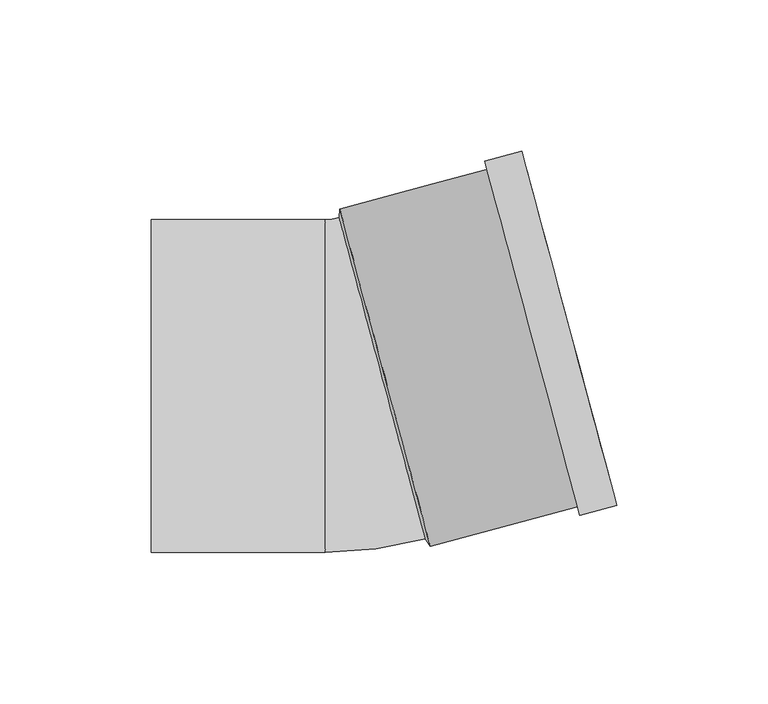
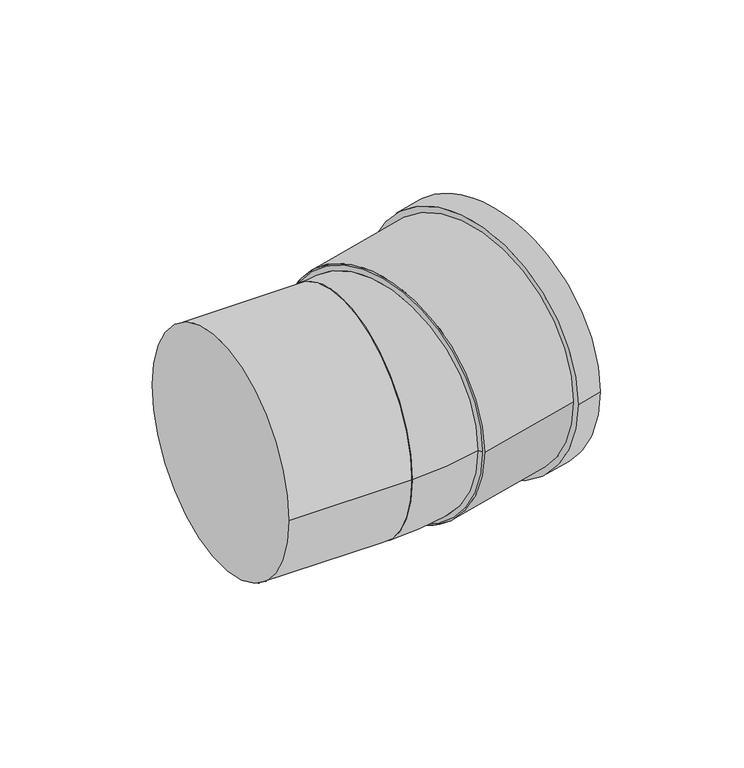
"""IFC4 building model written with IfcOpenShell, lengths in millimetres: pipe fitting geometry, Superdrain HT bend : Superdrain HT Bend."""

from ifc_helpers import new_model, si_unit, point, frame, origin, origin_2d, place, context, project, spatial, polyline, circle_curve, ellipse_curve, trimmed, segment, composite_curve, outline, extrude, source, transform, mapped, element, save
from ifc_brep_helpers import plane_surface, revolved_surface, advanced_brep


def pipe_fitting_52a06b67(model_context):
    return source(origin(), model_context, "Body", "SolidModel", [
        advanced_brep(
        [(23.5079354, -50.6412576, 0.0), (-4.9621595, 55.6105833, 0.0), (-9.6, -55.0, 0.0), (-9.6, 55.0, 0.0)],
        [
            (0, 1, circle_curve(frame((9.2728879, 2.4846628, 0.0), z_axis=(0.965925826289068, 0.25881904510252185, 0.0), x_axis=(-0.25881904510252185, 0.965925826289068, 0.0)), 55.0)),
            (1, 0, circle_curve(frame((9.2728879, 2.4846628, 0.0), z_axis=(0.9659258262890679, 0.25881904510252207, 0.0), x_axis=(-0.25881904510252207, 0.9659258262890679, 0.0)), 55.0)),
            (2, 3, circle_curve(frame((-9.6, 0.0, 0.0), z_axis=(-1.0, 0.0, 0.0), x_axis=(0.0, 1.0, 0.0)), 55.0)),
            (3, 2, circle_curve(frame((-9.6, 0.0, 0.0), z_axis=(-1.0, 0.0, 0.0), x_axis=(0.0, 1.0, 0.0)), 55.0)),
            (3, 1, circle_curve(frame((-9.6, 72.9192395, 0.0), z_axis=(0.0, 0.0, 1.0), x_axis=(1.0, 0.0, 0.0)), 17.9192395)),
            (0, 2, circle_curve(frame((-9.6, 72.9192395, 0.0), z_axis=(0.0, 0.0, -1.0), x_axis=(1.0, 0.0, 0.0)), 127.9192395)),
        ],
        [
            plane_surface(frame((9.2728879, 2.4846628, 0.0), z_axis=(0.965925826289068, 0.258819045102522, 0.0), x_axis=(0.0, 0.0, -1.0))),
            plane_surface(frame((-9.6, 0.0, 0.0), z_axis=(-1.0, 0.0, 0.0), x_axis=(0.0, 0.0, -1.0))),
            revolved_surface(trimmed(ellipse_curve(frame((63.3192395, 72.9192395, 0.0), z_axis=(0.0, -1.0, 0.0), x_axis=(-1.0, 0.0, 0.0)), 55.0, 55.0), [point((8.3192395, 72.9192395, 0.0))], [point((118.3192395, 72.9192395, 0.0))], True, "CARTESIAN"), (-9.6, 72.9192395, 0.0), (0.0, 0.0, 1.0)),
            revolved_surface(trimmed(ellipse_curve(frame((63.3192395, 72.9192395, 0.0), z_axis=(0.0, -1.0, 0.0), x_axis=(-1.0, 0.0, 0.0)), 55.0, 55.0), [point((118.3192395, 72.9192395, 0.0))], [point((8.3192395, 72.9192395, 0.0))], True, "CARTESIAN"), (-9.6, 72.9192395, 0.0), (0.0, 0.0, 1.0)),
        ],
        [
            (0, [[1, 2]]),
            (1, [[3, 4]]),
            (2, [[-4, 5, -1, 6]]),
            (3, [[-3, -6, -2, -5]]),
        ],
    ),
        extrude(outline(composite_curve([segment(trimmed(circle_curve(origin_2d(), 57.75), [point((0.0, 57.75))], [point((0.0, -57.7499999))], False, "CARTESIAN"), True, "CONTINUOUS"), segment(trimmed(circle_curve(origin_2d(), 57.75), [point((0.0, -57.7499999))], [point((0.0, 57.75))], False, "CARTESIAN"), True, "CONTINUOUS")], self_intersect=False), holes=[composite_curve([segment(trimmed(circle_curve(origin_2d(), 55.0), [point((0.0, 55.0))], [point((0.0, -55.0))], True, "CARTESIAN"), True, "CONTINUOUS"), segment(trimmed(circle_curve(origin_2d(), 55.0), [point((0.0, -55.0))], [point((0.0, 55.0))], True, "CARTESIAN"), True, "CONTINUOUS")], self_intersect=False)]), frame((10.2388138, 2.7434819, 0.0), z_axis=(0.9659258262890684, 0.2588190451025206, 0.0), x_axis=(0.0, 0.0, 1.0)), (0.0, 0.0, 1.0), 63.0),
        extrude(outline(composite_curve([segment(trimmed(circle_curve(origin_2d(), 60.6375), [point((0.0, -60.6374999))], [point((0.0, 60.6375))], False, "CARTESIAN"), True, "CONTINUOUS"), segment(trimmed(circle_curve(origin_2d(), 60.6375), [point((0.0, 60.6375))], [point((0.0, -60.6374999))], False, "CARTESIAN"), True, "CONTINUOUS")], self_intersect=False), holes=[composite_curve([segment(trimmed(circle_curve(origin_2d(), 55.0), [point((0.0, -55.0))], [point((0.0, 55.0000001))], True, "CARTESIAN"), True, "CONTINUOUS"), segment(trimmed(circle_curve(origin_2d(), 55.0), [point((0.0, 55.0000001))], [point((0.0, -55.0))], True, "CARTESIAN"), True, "CONTINUOUS")], self_intersect=False)]), frame((58.9214754, 15.7879618, 0.0), z_axis=(0.9659258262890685, 0.25881904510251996, 0.0), x_axis=(0.0, 0.0, 1.0)), (0.0, 0.0, 1.0), 12.6),
        advanced_brep(
        [(25.1856136, -53.0387346, 0.0), (-4.7079861, 58.5256983, 0.0), (23.5079354, -50.6412576, 0.0), (-4.9621595, 55.6105833, 0.0)],
        [
            (0, 1, circle_curve(frame((10.2388138, 2.7434819, 0.0), z_axis=(0.9659258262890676, 0.25881904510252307, 0.0), x_axis=(0.25881904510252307, -0.9659258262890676, 0.0)), 57.75)),
            (1, 0, circle_curve(frame((10.2388138, 2.7434819, 0.0), z_axis=(0.9659258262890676, 0.25881904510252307, 0.0), x_axis=(-0.25881904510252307, 0.9659258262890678, 0.0)), 57.75)),
            (2, 3, circle_curve(frame((9.2728879, 2.4846628, 0.0), z_axis=(-0.9659258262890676, -0.25881904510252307, 0.0), x_axis=(-0.25881904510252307, 0.9659258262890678, 0.0)), 55.0)),
            (3, 2, circle_curve(frame((9.2728879, 2.4846628, 0.0), z_axis=(-0.9659258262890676, -0.25881904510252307, 0.0), x_axis=(0.25881904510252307, -0.9659258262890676, 0.0)), 55.0)),
            (3, 1),
            (0, 2),
        ],
        [
            plane_surface(frame((10.2388138, 2.7434819, 0.0), z_axis=(0.9659258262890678, 0.25881904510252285, 0.0), x_axis=(0.0, 0.0, -1.0))),
            plane_surface(frame((9.2728879, 2.4846628, 0.0), z_axis=(-0.9659258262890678, -0.25881904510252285, 0.0), x_axis=(0.0, 0.0, -1.0))),
            revolved_surface(polyline([(-4.962159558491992, 55.61058316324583, 0.0), (-4.7079860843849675, 58.525698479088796, 0.0)]), (-10.0456286, -2.6917181, 0.0), (0.9659258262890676, 0.25881904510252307, 0.0)),
            revolved_surface(polyline([(23.507935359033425, -50.641257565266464, 0.0), (25.185613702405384, -53.03873474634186, 0.0)]), (-10.0456286, -2.6917181, 0.0), (0.9659258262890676, 0.25881904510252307, 0.0)),
        ],
        [
            (0, [[1, 2]]),
            (1, [[3, 4]]),
            (2, [[-4, 5, -1, 6]]),
            (3, [[-3, -6, -2, -5]]),
        ],
    ),
        extrude(outline(composite_curve([segment(trimmed(circle_curve(origin_2d(), 55.0), [point((-55.0, 0.0))], [point((55.0, 0.0))], False, "CARTESIAN"), True, "CONTINUOUS"), segment(trimmed(circle_curve(origin_2d(), 55.0), [point((55.0, 0.0))], [point((-55.0, 0.0))], False, "CARTESIAN"), True, "CONTINUOUS")], self_intersect=False)), frame((-67.0, 0.0, 0.0), z_axis=(1.0, 0.0, 0.0), x_axis=(0.0, 1.0, 0.0)), (0.0, 0.0, 1.0), 57.4),
    ])


if __name__ == "__main__":
    model = new_model("IFC4")
    model_context = context("Model", 3, world=origin())
    ifc_project = project(units=[si_unit("LENGTHUNIT", "METRE", prefix="MILLI")], contexts=[model_context])
    site = spatial("IfcSite", under=ifc_project)
    building = spatial("IfcBuilding", under=site)
    placement = place(None, origin())
    pipe_fitting_shape = pipe_fitting_52a06b67(model_context)
    element("IfcPipeFitting", 1, ObjectType="Superdrain HT bend : Superdrain HT Bend", at=placement, inside=building, context=model_context, shape_type="MappedRepresentation", body=[
        mapped(pipe_fitting_shape, transform((0.0, 0.0, 0.0), x_axis=(1.0, 0.0, 0.0), y_axis=(0.0, 1.0, 0.0), z_axis=(0.0, 0.0, 1.0))),
    ])
    save(model, "model.ifc")
